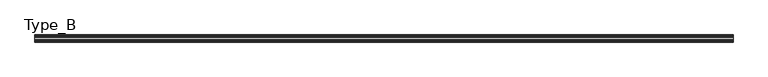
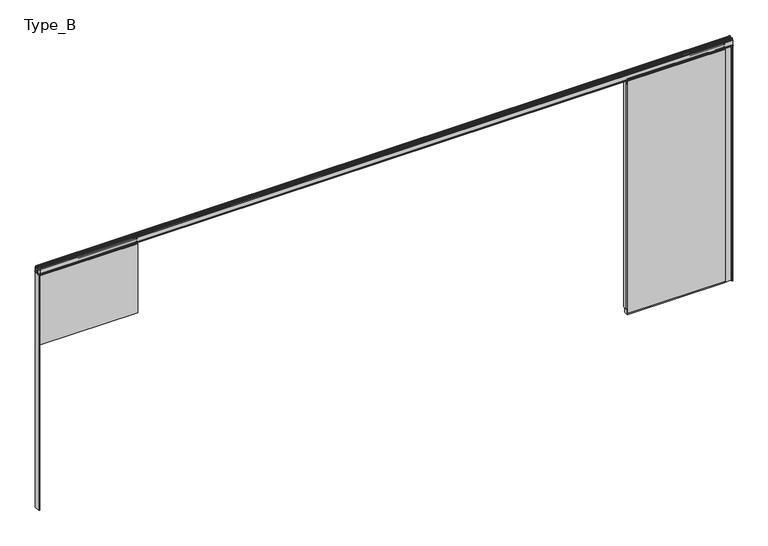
"""IFC4 building model written with IfcOpenShell, lengths in millimetres: proxy geometry, Planner Wall フラッシュパネル(Door) : Type_B."""

import ifcopenshell
import ifcopenshell.guid

model = None  # the IFC model being written
_history = None  # IfcOwnerHistory: only IFC2X3 demands one
_inside = {}  # id of a spatial element -> (the spatial element, [elements in it])
_under = {}  # id of a project, library or spatial element -> (it, [spatial elements below it])
_declared = {}  # id of a project -> (the project, [libraries it declares])
_typed = {}  # id of a type object -> (the type object, [elements of that type])
_made_of = {}  # id of a material, layer set ... -> (it, [elements and type objects made of it])


def new_model(schema):
    """Start an empty IFC model of exactly this schema.

    Asked for "IFC4X3", IfcOpenShell would pick the latest addendum, in which some entities
    have other attributes; the version numbers below select the first issue.
    IFC2X3 requires an IfcOwnerHistory on every rooted entity: one is made here for all.
    """
    global model, _history
    if schema == "IFC4X3":
        model = ifcopenshell.file(schema_version=(4, 3, 0, 0))
    else:
        model = ifcopenshell.file(schema=schema)
    _inside.clear()
    _under.clear()
    _declared.clear()
    _typed.clear()
    _made_of.clear()
    _history = None
    if model.schema == "IFC2X3":
        org = make("IfcOrganization", Name="unknown")
        user = make(
            "IfcPersonAndOrganization",
            ThePerson=make("IfcPerson", FamilyName="unknown"),
            TheOrganization=org,
        )
        app = make(
            "IfcApplication",
            ApplicationDeveloper=org,
            Version="unknown",
            ApplicationFullName="unknown",
            ApplicationIdentifier="unknown",
        )
        _history = make(
            "IfcOwnerHistory",
            OwningUser=user,
            OwningApplication=app,
            ChangeAction="ADDED",
            CreationDate=0,
        )
    return model


def make(cls, **values):
    """One entity of the class cls with the attributes given. An attribute that is None is left unset."""
    return model.create_entity(
        cls, **{name: value for name, value in values.items() if value is not None}
    )


def rooted(cls, **values):
    """An entity with a GlobalId (a new one), such as an element, a storey or a relation."""
    return make(cls, GlobalId=ifcopenshell.guid.new(), OwnerHistory=_history, **values)


def si_unit(unit_type, name, prefix=None):
    """IfcSIUnit, for example si_unit("LENGTHUNIT", "METRE", prefix="MILLI")."""
    return make("IfcSIUnit", UnitType=unit_type, Prefix=prefix, Name=name)


def assignment(units):
    """IfcUnitAssignment: the units of a project."""
    return None if units is None else make("IfcUnitAssignment", Units=units)


def point(xyz):
    """IfcCartesianPoint."""
    return None if xyz is None else make("IfcCartesianPoint", Coordinates=xyz)


def direction(xyz):
    """IfcDirection."""
    return None if xyz is None else make("IfcDirection", DirectionRatios=xyz)


def frame(location, z_axis=None, x_axis=None):
    """IfcAxis2Placement3D, a coordinate frame: its origin and axes. An axis left out is left unset."""
    return make(
        "IfcAxis2Placement3D",
        Location=point(location),
        Axis=direction(z_axis),
        RefDirection=direction(x_axis),
    )


def frame_2d(location, x_axis=None):
    """IfcAxis2Placement2D, a coordinate frame in the plane: its origin and x axis."""
    return make(
        "IfcAxis2Placement2D", Location=point(location), RefDirection=direction(x_axis)
    )


def origin():
    """The frame at (0, 0, 0) with its axes left unset."""
    return frame((0.0, 0.0, 0.0))


def origin_with_axes():
    """The frame at (0, 0, 0) with the z axis (0, 0, 1) and the x axis (1, 0, 0) written out."""
    return frame((0.0, 0.0, 0.0), z_axis=(0.0, 0.0, 1.0), x_axis=(1.0, 0.0, 0.0))


def place(relative_to, where):
    """IfcLocalPlacement: puts the frame where relative to a parent placement (None: the world)."""
    return make(
        "IfcLocalPlacement", PlacementRelTo=relative_to, RelativePlacement=where
    )


def context(
    kind, dimensions, precision=None, world=None, true_north=None, identifier=None
):
    """IfcGeometricRepresentationContext, for example the 3D "Model" context."""
    return make(
        "IfcGeometricRepresentationContext",
        ContextIdentifier=identifier,
        ContextType=kind,
        CoordinateSpaceDimension=dimensions,
        Precision=precision,
        WorldCoordinateSystem=world,
        TrueNorth=true_north,
    )


def project(units=None, contexts=None):
    """IfcProject with its units and contexts."""
    return rooted(
        "IfcProject",
        Name="project",
        RepresentationContexts=contexts,
        UnitsInContext=assignment(units),
    )


def spatial(cls, under=None, at=None, **own):
    """A site, building, storey or space (cls), placed at a placement, below another one or the project."""
    s = rooted(cls, ObjectPlacement=at, **own)
    if under is not None:
        _under.setdefault(under.id(), (under, []))[1].append(s)
    return s


def polyline(points):
    """IfcPolyline through the points."""
    return make("IfcPolyline", Points=[point(p) for p in points])


def circle_curve(where, radius):
    """IfcCircle in the frame where."""
    return make("IfcCircle", Position=where, Radius=radius)


def trimmed(basis, trim1, trim2, sense, master):
    """IfcTrimmedCurve: the piece of a basis curve between two trims."""
    return make(
        "IfcTrimmedCurve",
        BasisCurve=basis,
        Trim1=trim1,
        Trim2=trim2,
        SenseAgreement=sense,
        MasterRepresentation=master,
    )


def segment(curve, same_sense, transition):
    """IfcCompositeCurveSegment."""
    return make(
        "IfcCompositeCurveSegment",
        Transition=transition,
        SameSense=same_sense,
        ParentCurve=curve,
    )


def composite_curve(segments, self_intersect=None):
    """IfcCompositeCurve: segments joined end to end."""
    return make("IfcCompositeCurve", Segments=segments, SelfIntersect=self_intersect)


def outline(outer, holes=None, kind="AREA"):
    """IfcArbitraryClosedProfileDef: a profile drawn as a closed curve; with holes, ...WithVoids."""
    if holes is None:
        return make("IfcArbitraryClosedProfileDef", ProfileType=kind, OuterCurve=outer)
    return make(
        "IfcArbitraryProfileDefWithVoids",
        ProfileType=kind,
        OuterCurve=outer,
        InnerCurves=holes,
    )


def extrude(swept, where, along, depth):
    """IfcExtrudedAreaSolid: the profile swept, set in the frame where, extruded along a direction by depth."""
    return make(
        "IfcExtrudedAreaSolid",
        SweptArea=swept,
        Position=where,
        ExtrudedDirection=direction(along),
        Depth=depth,
    )


def shape(context_of_items, identifier, shape_type, items):
    """IfcShapeRepresentation: the items that make up one representation, for example the "Body"."""
    return make(
        "IfcShapeRepresentation",
        ContextOfItems=context_of_items,
        RepresentationIdentifier=identifier,
        RepresentationType=shape_type,
        Items=items,
    )


def source(mapping_origin, context_of_items, identifier, shape_type, items):
    """IfcRepresentationMap: a shape defined once, which mapped items show again and again."""
    return make(
        "IfcRepresentationMap",
        MappingOrigin=mapping_origin,
        MappedRepresentation=shape(context_of_items, identifier, shape_type, items),
    )


def transform(
    local_origin,
    x_axis=None,
    y_axis=None,
    z_axis=None,
    scale=None,
    scale2=None,
    scale3=None,
    uniform=True,
):
    """IfcCartesianTransformationOperator3D, or its non-uniform kind. x_axis, y_axis, z_axis: its Axis1, 2, 3."""
    if uniform:
        return make(
            "IfcCartesianTransformationOperator3D",
            Axis1=direction(x_axis),
            Axis2=direction(y_axis),
            LocalOrigin=point(local_origin),
            Scale=scale,
            Axis3=direction(z_axis),
        )
    return make(
        "IfcCartesianTransformationOperator3DnonUniform",
        Axis1=direction(x_axis),
        Axis2=direction(y_axis),
        LocalOrigin=point(local_origin),
        Scale=scale,
        Axis3=direction(z_axis),
        Scale2=scale2,
        Scale3=scale3,
    )


def mapped(mapping_source, mapping_target):
    """IfcMappedItem: shows the shape of a source again, moved by a transform."""
    return make(
        "IfcMappedItem", MappingSource=mapping_source, MappingTarget=mapping_target
    )


def made_of(thing, what):
    """Note that an element or type object is made of a material, layer set ...; save() writes the relation."""
    if what is not None:
        _made_of.setdefault(what.id(), (what, []))[1].append(thing)
    return thing


def element(
    cls,
    number,
    at=None,
    inside=None,
    cuts=None,
    type_object=None,
    material=None,
    context=None,
    identifier="Body",
    shape_type=None,
    held_by="IfcProductDefinitionShape",
    body=None,
    shapes=None,
    **own,
):
    """One element of the class cls, such as IfcWall. Its Tag is "e" and its number.

    at: its placement. inside: the storey or other place that contains it. cuts: it is an
    opening in that element (IfcRelVoidsElement). A single representation is given by context,
    identifier, shape_type and body (its items); several are given by shapes. held_by: the class
    of the entity that holds the representations. save() writes the other relations.
    """
    e = rooted(cls, Tag="e%d" % number, ObjectPlacement=at, **own)
    if body is not None:
        shapes = [shape(context, identifier, shape_type, body)]
    if shapes is not None:
        e.Representation = make(held_by, Representations=shapes)
    if inside is not None:
        _inside.setdefault(inside.id(), (inside, []))[1].append(e)
    if cuts is not None:
        rooted(
            "IfcRelVoidsElement", RelatingBuildingElement=cuts, RelatedOpeningElement=e
        )
    if type_object is not None:
        _typed.setdefault(type_object.id(), (type_object, []))[1].append(e)
    return made_of(e, material)


def aggregate(whole, parts):
    """IfcRelAggregates: a whole, such as a stair, and the parts it consists of."""
    return rooted("IfcRelAggregates", RelatingObject=whole, RelatedObjects=parts)


def save(model, path):
    """Write the relations noted so far, then the file.

    IfcRelAggregates (storeys below a building ...), IfcRelContainedInSpatialStructure (elements
    in a storey), IfcRelDefinesByType, IfcRelAssociatesMaterial and IfcRelDeclares: one each for
    every whole, place, type object, material and project.
    """
    for whole, parts in _under.values():
        aggregate(whole, parts)
    for where, things in _inside.values():
        rooted(
            "IfcRelContainedInSpatialStructure",
            RelatedElements=things,
            RelatingStructure=where,
        )
    for kind, things in _typed.values():
        rooted("IfcRelDefinesByType", RelatedObjects=things, RelatingType=kind)
    for what, things in _made_of.values():
        rooted("IfcRelAssociatesMaterial", RelatedObjects=things, RelatingMaterial=what)
    for by, libraries in _declared.values():
        rooted("IfcRelDeclares", RelatingContext=by, RelatedDefinitions=libraries)
    model.write(path)


def type_b_248656a5(model_context):
    return source(origin(), model_context, "Body", "SweptSolid", [
        extrude(outline(composite_curve([segment(polyline([(23.5, 3050.1000003), (26.5, 3047.1000003), (26.5, 3032.6)]), True, "CONTINUOUS"), segment(trimmed(circle_curve(frame_2d((25.0, 3032.6)), 1.5), [point((26.5, 3032.6))], [point((25.0, 3031.1))], False, "CARTESIAN"), True, "CONTINUOUS"), segment(polyline([(25.0, 3031.1), (9.0, 3031.1), (9.0, 3019.1000003), (23.5, 3019.1000003), (26.5, 3016.1000003), (26.5, 3001.5)]), True, "CONTINUOUS"), segment(trimmed(circle_curve(frame_2d((25.0, 3001.5)), 1.5), [point((26.5, 3001.5))], [point((25.0, 3000.0))], False, "CARTESIAN"), True, "CONTINUOUS"), segment(polyline([(25.0, 3000.0), (7.5, 3000.0), (7.5, 2994.5), (25.0, 2994.5), (25.0, 2935.0), (-25.0, 2935.0), (-25.0, 2994.5), (-7.5, 2994.5), (-7.5, 3000.0), (-25.0, 3000.0)]), True, "CONTINUOUS"), segment(trimmed(circle_curve(frame_2d((-25.0, 3001.5)), 1.5), [point((-25.0, 3000.0))], [point((-26.5, 3001.5))], False, "CARTESIAN"), True, "CONTINUOUS"), segment(polyline([(-26.5, 3001.5), (-26.5, 3016.1000003), (-23.5, 3019.1000003), (-9.0, 3019.1000003), (-9.0, 3031.1), (-25.0, 3031.1)]), True, "CONTINUOUS"), segment(trimmed(circle_curve(frame_2d((-25.0, 3032.6)), 1.5), [point((-25.0, 3031.1))], [point((-26.5, 3032.6))], False, "CARTESIAN"), True, "CONTINUOUS"), segment(polyline([(-26.5, 3032.6), (-26.5, 3047.1000003), (-23.5, 3050.1000003), (23.5, 3050.1000003)]), True, "CONTINUOUS")], self_intersect=False)), frame((21.5, 0.0, 0.0), z_axis=(1.0, 0.0, 0.0), x_axis=(0.0, 1.0, 0.0)), (0.0, 0.0, 1.0), 1169.8571429),
        extrude(outline(polyline([(1191.3571429, 24.9), (21.5, 24.9), (21.5, 35.0), (1191.3571429, 35.0), (1191.3571429, 24.9)])), frame((0.0, 0.0, 2100.0), z_axis=(0.0, 0.0, 1.0), x_axis=(1.0, 0.0, 0.0)), (0.0, 0.0, 1.0), 875.0),
        extrude(outline(polyline([(1191.3571429, -35.0), (21.5, -35.0), (21.5, -24.9), (1191.3571429, -24.9), (1191.3571429, -35.0)])), frame((0.0, 0.0, 2100.0), z_axis=(0.0, 0.0, 1.0), x_axis=(1.0, 0.0, 0.0)), (0.0, 0.0, 1.0), 875.0),
        extrude(outline(polyline([(8.0, -25.0), (8.0, 25.0), (21.5, 25.0), (21.5, -25.0), (8.0, -25.0)])), frame((0.0, 0.0, 53.0), z_axis=(0.0, 0.0, 1.0), x_axis=(1.0, 0.0, 0.0)), (0.0, 0.0, 1.0), 2869.0),
        extrude(outline(polyline([(7088.6428571, -25.0), (7088.6428571, 25.0), (8253.0, 25.0), (8253.0, -25.0), (7088.6428571, -25.0)])), origin_with_axes(), (0.0, 0.0, 1.0), 65.0),
        extrude(outline(polyline([(8253.0, -19.5), (8253.0, 19.5), (8335.5, 19.5), (8335.5, 25.0), (8342.0, 25.0), (8342.0, -25.0), (8335.5, -25.0), (8335.5, -19.5), (8253.0, -19.5)])), origin_with_axes(), (0.0, 0.0, 1.0), 2994.0),
        extrude(outline(composite_curve([segment(polyline([(23.5, 3050.1000003), (26.5, 3047.1000003), (26.5, 3032.6)]), True, "CONTINUOUS"), segment(trimmed(circle_curve(frame_2d((25.0, 3032.6)), 1.5), [point((26.5, 3032.6))], [point((25.0, 3031.1))], False, "CARTESIAN"), True, "CONTINUOUS"), segment(polyline([(25.0, 3031.1), (9.0, 3031.1), (9.0, 3019.1000003), (23.5, 3019.1000003), (26.5, 3016.1000003), (26.5, 3001.5)]), True, "CONTINUOUS"), segment(trimmed(circle_curve(frame_2d((25.0, 3001.5)), 1.5), [point((26.5, 3001.5))], [point((25.0, 3000.0))], False, "CARTESIAN"), True, "CONTINUOUS"), segment(polyline([(25.0, 3000.0), (7.5, 3000.0), (7.5, 2994.5), (25.0, 2994.5), (25.0, 2935.0), (-25.0, 2935.0), (-25.0, 2994.5), (-7.5, 2994.5), (-7.5, 3000.0), (-25.0, 3000.0)]), True, "CONTINUOUS"), segment(trimmed(circle_curve(frame_2d((-25.0, 3001.5)), 1.5), [point((-25.0, 3000.0))], [point((-26.5, 3001.5))], False, "CARTESIAN"), True, "CONTINUOUS"), segment(polyline([(-26.5, 3001.5), (-26.5, 3016.1000003), (-23.5, 3019.1000003), (-9.0, 3019.1000003), (-9.0, 3031.1), (-25.0, 3031.1)]), True, "CONTINUOUS"), segment(trimmed(circle_curve(frame_2d((-25.0, 3032.6)), 1.5), [point((-25.0, 3031.1))], [point((-26.5, 3032.6))], False, "CARTESIAN"), True, "CONTINUOUS"), segment(polyline([(-26.5, 3032.6), (-26.5, 3047.1000003), (-23.5, 3050.1000003), (23.5, 3050.1000003)]), True, "CONTINUOUS")], self_intersect=False)), frame((7088.6428571, 0.0, 0.0), z_axis=(1.0, 0.0, 0.0), x_axis=(0.0, 1.0, 0.0)), (0.0, 0.0, 1.0), 1169.8571429),
        extrude(outline(polyline([(8258.5, 24.9), (7088.6428571, 24.9), (7088.6428571, 35.0), (8258.5, 35.0), (8258.5, 24.9)])), frame((0.0, 0.0, 25.0), z_axis=(0.0, 0.0, 1.0), x_axis=(1.0, 0.0, 0.0)), (0.0, 0.0, 1.0), 2950.0),
        extrude(outline(polyline([(8258.5, -35.0), (7088.6428571, -35.0), (7088.6428571, -24.9), (8258.5, -24.9), (8258.5, -35.0)])), frame((0.0, 0.0, 25.0), z_axis=(0.0, 0.0, 1.0), x_axis=(1.0, 0.0, 0.0)), (0.0, 0.0, 1.0), 2950.0),
        extrude(outline(polyline([(7075.1428571, -25.0), (7075.1428571, 25.0), (7088.6428571, 25.0), (7088.6428571, -25.0), (7075.1428571, -25.0)])), frame((0.0, 0.0, 78.0), z_axis=(0.0, 0.0, 1.0), x_axis=(1.0, 0.0, 0.0)), (0.0, 0.0, 1.0), 2897.0),
        extrude(outline(polyline([(0.0, -35.0), (0.0, 35.0), (13.5, 35.0), (13.5, 25.0), (8.0, 25.0), (8.0, -25.0), (13.5, -25.0), (13.5, -35.0), (0.0, -35.0)])), origin_with_axes(), (0.0, 0.0, 1.0), 2994.0),
        extrude(outline(composite_curve([segment(trimmed(circle_curve(frame_2d((-26.5, 3056.0)), 5.0), [point((-31.5, 3056.0))], [point((-26.1165175, 3060.9852724))], False, "CARTESIAN"), True, "CONTINUOUS"), segment(polyline([(-26.1165175, 3060.9852724), (-24.5, 3060.9852724), (-24.5, 3075.0)]), True, "CONTINUOUS"), segment(trimmed(circle_curve(frame_2d((-21.5, 3075.0)), 3.0), [point((-24.5, 3075.0))], [point((-21.5, 3078.0))], False, "CARTESIAN"), True, "CONTINUOUS"), segment(polyline([(-21.5, 3078.0), (-14.0, 3078.0)]), True, "CONTINUOUS"), segment(trimmed(circle_curve(frame_2d((-14.0, 3076.5)), 1.5), [point((-14.0, 3078.0))], [point((-12.5, 3076.5))], False, "CARTESIAN"), True, "CONTINUOUS"), segment(polyline([(-12.5, 3076.5), (-12.5, 3074.5)]), True, "CONTINUOUS"), segment(trimmed(circle_curve(frame_2d((-13.0, 3074.5)), 0.5), [point((-12.5, 3074.5))], [point((-13.0, 3074.0))], False, "CARTESIAN"), True, "CONTINUOUS"), segment(polyline([(-13.0, 3074.0), (-19.0, 3074.0)]), True, "CONTINUOUS"), segment(trimmed(circle_curve(frame_2d((-19.0, 3072.5)), 1.5), [point((-19.0, 3074.0))], [point((-20.5, 3072.5))], True, "CARTESIAN"), True, "CONTINUOUS"), segment(polyline([(-20.5, 3072.5), (-20.5, 3062.5)]), True, "CONTINUOUS"), segment(trimmed(circle_curve(frame_2d((-19.0, 3062.5)), 1.5), [point((-20.5, 3062.5))], [point((-19.0, 3061.0))], True, "CARTESIAN"), True, "CONTINUOUS"), segment(polyline([(-19.0, 3061.0), (19.0, 3061.0)]), True, "CONTINUOUS"), segment(trimmed(circle_curve(frame_2d((19.0, 3062.5)), 1.5), [point((19.0, 3061.0))], [point((20.5, 3062.5))], True, "CARTESIAN"), True, "CONTINUOUS"), segment(polyline([(20.5, 3062.5), (20.5, 3072.5)]), True, "CONTINUOUS"), segment(trimmed(circle_curve(frame_2d((19.0, 3072.5)), 1.5), [point((20.5, 3072.5))], [point((19.0, 3074.0))], True, "CARTESIAN"), True, "CONTINUOUS"), segment(polyline([(19.0, 3074.0), (13.0, 3074.0)]), True, "CONTINUOUS"), segment(trimmed(circle_curve(frame_2d((13.0, 3074.5)), 0.5), [point((13.0, 3074.0))], [point((12.5, 3074.5))], False, "CARTESIAN"), True, "CONTINUOUS"), segment(polyline([(12.5, 3074.5), (12.5, 3076.5)]), True, "CONTINUOUS"), segment(trimmed(circle_curve(frame_2d((14.0, 3076.5)), 1.5), [point((12.5, 3076.5))], [point((14.0, 3078.0))], False, "CARTESIAN"), True, "CONTINUOUS"), segment(polyline([(14.0, 3078.0), (21.5, 3078.0)]), True, "CONTINUOUS"), segment(trimmed(circle_curve(frame_2d((21.5, 3075.0)), 3.0), [point((21.5, 3078.0))], [point((24.5, 3075.0))], False, "CARTESIAN"), True, "CONTINUOUS"), segment(polyline([(24.5, 3075.0), (24.5, 3060.9852724), (26.1165175, 3060.9852724)]), True, "CONTINUOUS"), segment(trimmed(circle_curve(frame_2d((26.5, 3056.0)), 5.0), [point((26.1165175, 3060.9852724))], [point((31.5, 3056.0))], False, "CARTESIAN"), True, "CONTINUOUS"), segment(polyline([(31.5, 3056.0), (31.5, 3000.0), (42.5, 3000.0), (42.5, 2994.0), (11.0, 2994.0), (11.0, 3000.0), (26.9, 3000.0), (26.9, 3007.0786797), (27.9, 3009.3213203), (27.9, 3052.0)]), True, "CONTINUOUS"), segment(trimmed(circle_curve(frame_2d((22.9, 3052.0)), 5.0), [point((27.9, 3052.0))], [point((22.9, 3057.0))], True, "CARTESIAN"), True, "CONTINUOUS"), segment(polyline([(22.9, 3057.0), (-22.9, 3057.0)]), True, "CONTINUOUS"), segment(trimmed(circle_curve(frame_2d((-22.9, 3052.0)), 5.0), [point((-22.9, 3057.0))], [point((-27.9, 3052.0))], True, "CARTESIAN"), True, "CONTINUOUS"), segment(polyline([(-27.9, 3052.0), (-27.9, 3009.3213203), (-26.9, 3007.0786797), (-26.9, 3000.0), (-11.0, 3000.0), (-11.0, 2994.0), (-42.5, 2994.0), (-42.5, 3000.0), (-31.5, 3000.0), (-31.5, 3056.0)]), True, "CONTINUOUS")], self_intersect=False)), frame((0.0, 0.0, 0.0), z_axis=(1.0, 0.0, 0.0), x_axis=(0.0, 1.0, 0.0)), (0.0, 0.0, 1.0), 8350.0),
        extrude(outline(polyline([(8350.0, -35.0), (8336.5, -35.0), (8336.5, -25.0), (8342.0, -25.0), (8342.0, 25.0), (8336.5, 25.0), (8336.5, 35.0), (8350.0, 35.0), (8350.0, -35.0)])), origin_with_axes(), (0.0, 0.0, 1.0), 2994.0),
        extrude(outline(polyline([(0.0, -35.0), (0.0, 35.0), (13.5, 35.0), (13.5, 25.0), (8.0, 25.0), (8.0, -25.0), (13.5, -25.0), (13.5, -35.0), (0.0, -35.0)])), origin_with_axes(), (0.0, 0.0, 1.0), 2994.0),
    ])


if __name__ == "__main__":
    model = new_model("IFC4")
    model_context = context("Model", 3, world=origin())
    ifc_project = project(units=[si_unit("LENGTHUNIT", "METRE", prefix="MILLI")], contexts=[model_context])
    site = spatial("IfcSite", under=ifc_project)
    building = spatial("IfcBuilding", under=site)
    placement = place(None, origin())
    type_b_shape = type_b_248656a5(model_context)
    element("IfcBuildingElementProxy", 1, Name="Planner Wall フラッシュパネル(Door) : Type_B", ObjectType="Planner Wall フラッシュパネル(Door) : Type_B", at=placement, inside=building, context=model_context, shape_type="MappedRepresentation", body=[
        mapped(type_b_shape, transform((0.0, 0.0, 0.0), x_axis=(1.0, 0.0, 0.0), y_axis=(0.0, 1.0, 0.0), z_axis=(0.0, 0.0, 1.0))),
    ])
    save(model, "model.ifc")
